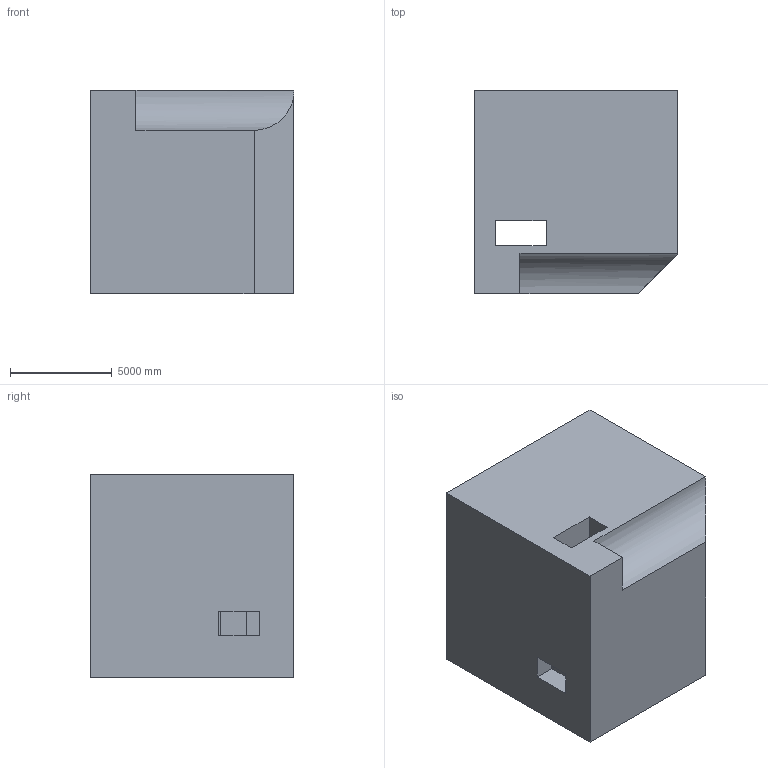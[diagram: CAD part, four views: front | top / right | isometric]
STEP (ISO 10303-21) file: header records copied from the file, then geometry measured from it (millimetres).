
FILE_DESCRIPTION (( 'STEP AP203' ), '1' );
FILE_NAME ('421.STEP', '2022-07-29T11:12:48', ( 'user' ), ( '' ), 'SwSTEP 2.0', 'SolidWorks 2021', '' );
FILE_SCHEMA (( 'CONFIG_CONTROL_DESIGN' ));
Length unit declared in the file: centimetre
Products named in the file (1): 421
Bounding box: 10000 x 10000 x 10000 mm (x, y, z)
Volume: 922627512349.5 mm3; surface area: 657462798.4 mm2
Topology: 1 solids, 1 shells, 22 faces, 57 edges, 38 vertices
Faces by surface type: plane 19, cylinder 3
Entity records: 748 total; most frequent: CARTESIAN_POINT 121, ORIENTED_EDGE 114, DIRECTION 108, EDGE_CURVE 57, LINE 50, VECTOR 50, VERTEX_POINT 38, AXIS2_PLACEMENT_3D 29
